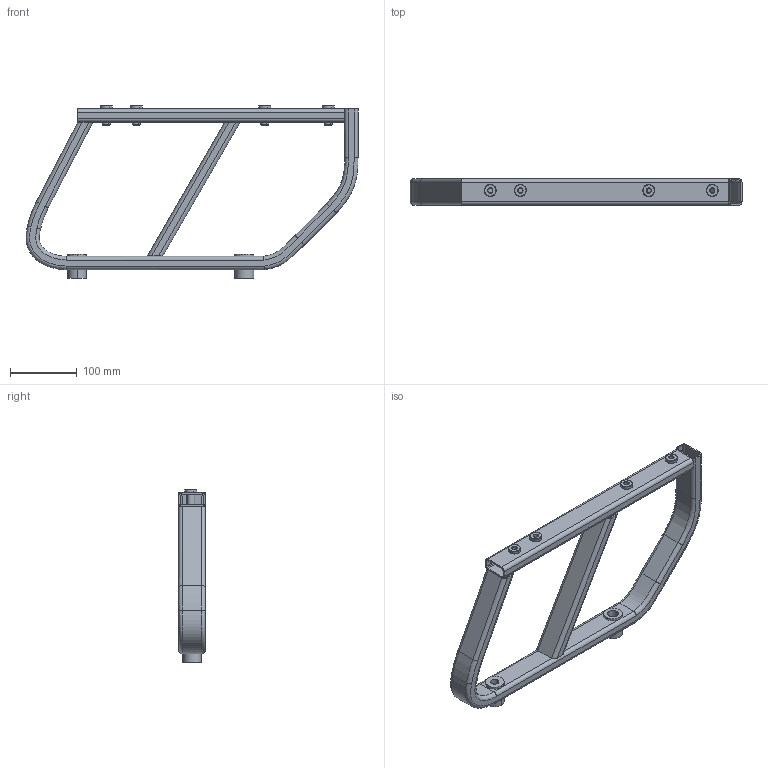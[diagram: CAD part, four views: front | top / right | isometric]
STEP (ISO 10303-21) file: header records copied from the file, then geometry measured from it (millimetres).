
FILE_DESCRIPTION(('CATIA V5 STEP Exchange'),'2;1');
FILE_NAME('C:\Users\wangyangguang\Desktop\奥杰轴套20220512\奥杰轴套\SBS0010120-副驾右支腿焊接总成\SBS0010120.stp','2022-05-18T08:06:30+00:00',('none'),('none'),'CATIA Version 5 Release 20 GA (IN-10)','CATIA V5 STEP AP203','none');
FILE_SCHEMA(('CONFIG_CONTROL_DESIGN'));
Length unit declared in the file: millimetre
Products named in the file (1): Part2
Bounding box: 496.47 x 40 x 258.39 mm (x, y, z)
Volume: 375029.9 mm3; surface area: 321944.4 mm2
Topology: 9 solids, 9 shells, 368 faces, 928 edges, 574 vertices
Faces by surface type: cylinder 162, plane 66, torus 56, cone 48, bspline 36
Entity records: 22885 total; most frequent: CARTESIAN_POINT 14688, ORIENTED_EDGE 1856, DIRECTION 1303, EDGE_CURVE 928, AXIS2_PLACEMENT_3D 681, VERTEX_POINT 574, EDGE_LOOP 418, CIRCLE 372
